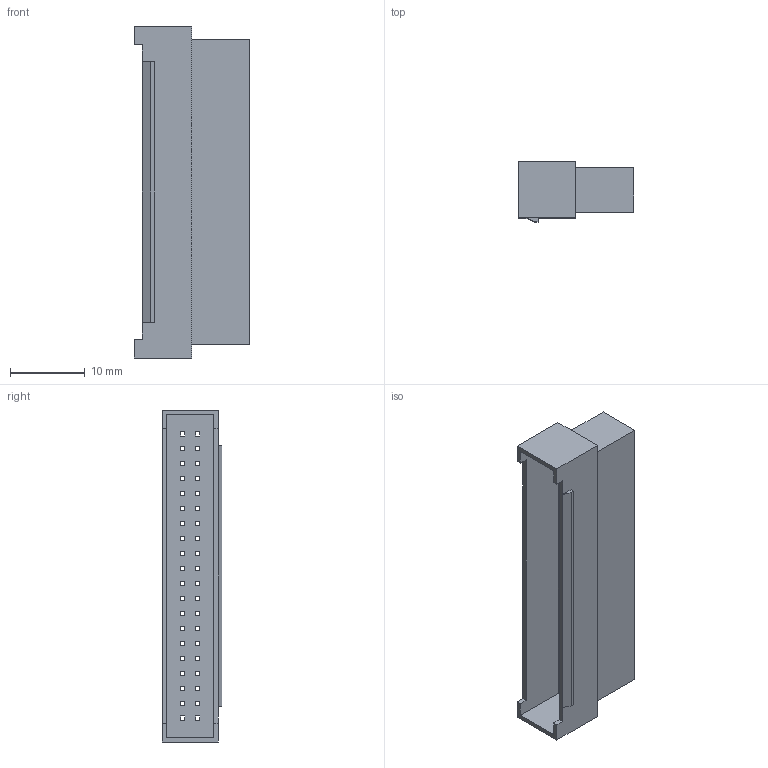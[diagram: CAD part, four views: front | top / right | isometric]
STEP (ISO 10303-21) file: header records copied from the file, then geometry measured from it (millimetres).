
FILE_DESCRIPTION(('CATIA V5 STEP Exchange'),'2;1');
FILE_NAME('\\Erp\共享文件夹\3D文件\小覃\条形连接器-小黄\PHB\2xNEY\HC-PHB-2x20EY-05(2.0 双排 母孔座-HCTL).stp','2025-02-26T02:32:11+00:00',('none'),('none'),'CATIA Version 5 Release 20 GA (IN-10)','CATIA V5 STEP AP203','none');
FILE_SCHEMA(('CONFIG_CONTROL_DESIGN'));
Length unit declared in the file: millimetre
Products named in the file (1): Part4
Bounding box: 15.5 x 8 x 44.4 mm (x, y, z)
Volume: 1460 mm3; surface area: 5181.8 mm2
Topology: 1 solids, 1 shells, 548 faces, 1513 edges, 1008 vertices
Faces by surface type: plane 548
Entity records: 15298 total; most frequent: ORIENTED_EDGE 3026, CARTESIAN_POINT 2673, DIRECTION 1815, VECTOR 1513, EDGE_CURVE 1513, LINE 1513, VERTEX_POINT 1008, EDGE_LOOP 669
